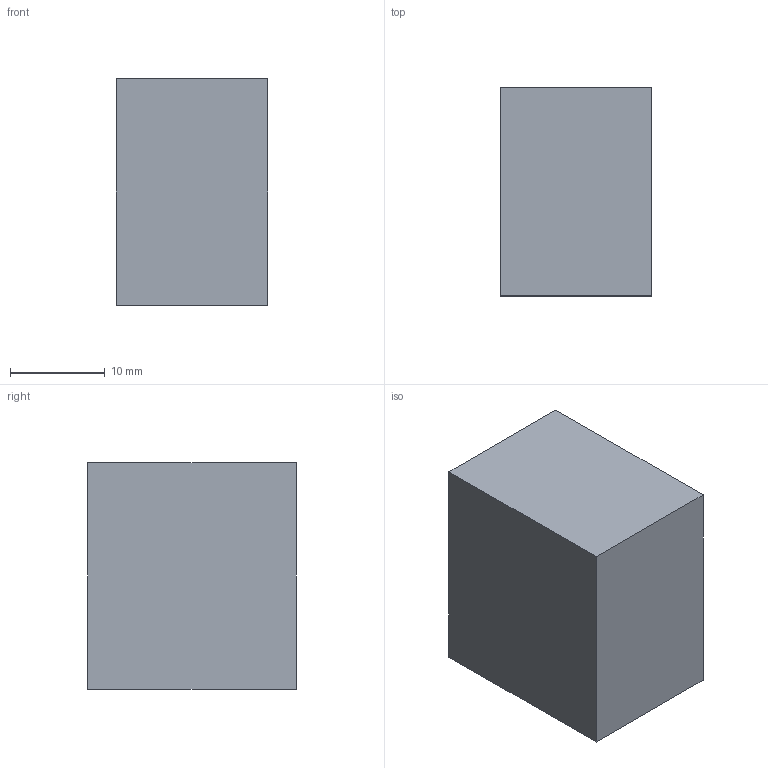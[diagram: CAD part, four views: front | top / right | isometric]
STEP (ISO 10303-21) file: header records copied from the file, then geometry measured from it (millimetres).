
FILE_DESCRIPTION(('Open CASCADE Model'),'2;1');
FILE_NAME('Open CASCADE Shape Model','2026-10-04T02:31:41',('Author'),( 'Open CASCADE'),'Open CASCADE STEP processor 8.0','Open CASCADE 8.0' ,'Unknown');
FILE_SCHEMA(('AUTOMOTIVE_DESIGN { 1 0 10303 214 1 1 1 1 }'));
Length unit declared in the file: millimetre
Products named in the file (1): Open CASCADE STEP translator 8.0 228
Bounding box: 16 x 22 x 24 mm (x, y, z)
Volume: 8448 mm3; surface area: 2528 mm2
Topology: 1 solids, 1 shells, 6 faces, 12 edges, 8 vertices
Faces by surface type: plane 6
Entity records: 322 total; most frequent: CARTESIAN_POINT 51, DIRECTION 50, LINE 36, VECTOR 36, ORIENTED_EDGE 24, PCURVE 24, DEFINITIONAL_REPRESENTATION 24, EDGE_CURVE 12
